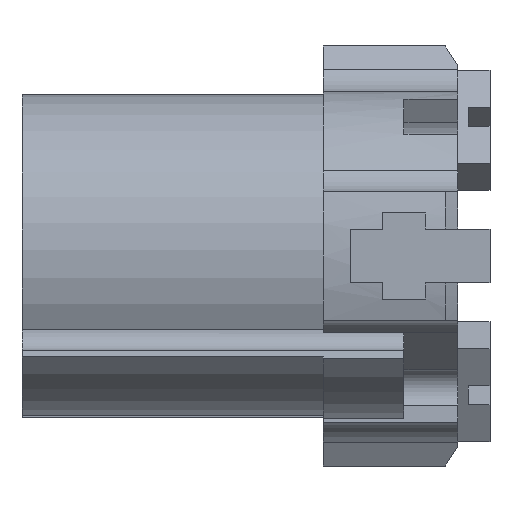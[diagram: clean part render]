
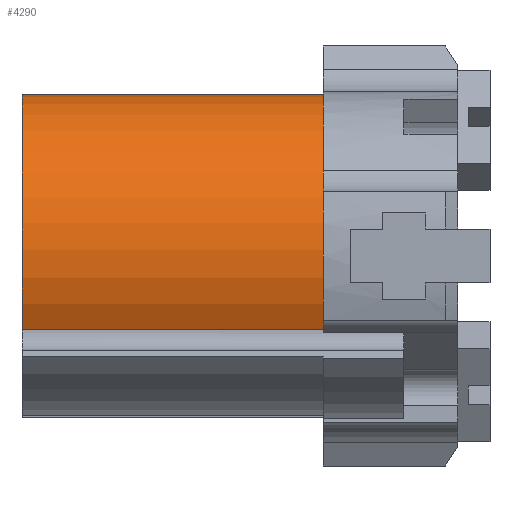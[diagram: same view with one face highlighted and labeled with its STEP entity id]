
A CAD part, left-side view. The second image highlights one B-rep face of the part: STEP entity #4290.
In plain terms, the highlighted cylindrical face has radius 15 mm (diameter 30 mm), a partial arc.
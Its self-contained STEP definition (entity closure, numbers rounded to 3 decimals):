
#178 = VERTEX_POINT ( 'NONE', #3902 ) ;
#208 = CARTESIAN_POINT ( 'NONE',  ( 0., -28., 15. ) ) ;
#277 = CARTESIAN_POINT ( 'NONE',  ( 0., 0., 0. ) ) ;
#311 = DIRECTION ( 'NONE',  ( 0., 1., 0. ) ) ;
#348 = DIRECTION ( 'NONE',  ( 0., 0., 1. ) ) ;
#385 = ORIENTED_EDGE ( 'NONE', *, *, #1876, .F. ) ;
#523 = AXIS2_PLACEMENT_3D ( 'NONE', #4277, #1209, #3858 ) ;
#661 = EDGE_CURVE ( 'NONE', #4169, #5307, #1063, .T. ) ;
#694 = ORIENTED_EDGE ( 'NONE', *, *, #1351, .F. ) ;
#695 = CIRCLE ( 'NONE', #1324, 15. ) ;
#914 = DIRECTION ( 'NONE',  ( 0., 0., 1. ) ) ;
#1063 = LINE ( 'NONE', #208, #3464 ) ;
#1209 = DIRECTION ( 'NONE',  ( 0., 1., 0. ) ) ;
#1324 = AXIS2_PLACEMENT_3D ( 'NONE', #277, #1993, #914 ) ;
#1351 = EDGE_CURVE ( 'NONE', #4398, #178, #2324, .T. ) ;
#1782 = CIRCLE ( 'NONE', #2502, 15. ) ;
#1876 = EDGE_CURVE ( 'NONE', #178, #5307, #695, .T. ) ;
#1919 = CARTESIAN_POINT ( 'NONE',  ( -13.334, -28., -6.871 ) ) ;
#1993 = DIRECTION ( 'NONE',  ( 0., 1., 0. ) ) ;
#2261 = EDGE_LOOP ( 'NONE', ( #2422, #5205, #385, #694 ) ) ;
#2324 = LINE ( 'NONE', #1919, #2437 ) ;
#2422 = ORIENTED_EDGE ( 'NONE', *, *, #3472, .T. ) ;
#2437 = VECTOR ( 'NONE', #2810, 1000. ) ;
#2502 = AXIS2_PLACEMENT_3D ( 'NONE', #3221, #311, #348 ) ;
#2810 = DIRECTION ( 'NONE',  ( 0., 1., 0. ) ) ;
#3221 = CARTESIAN_POINT ( 'NONE',  ( 0., -28., 0. ) ) ;
#3339 = FACE_OUTER_BOUND ( 'NONE', #2261, .T. ) ;
#3464 = VECTOR ( 'NONE', #3613, 1000. ) ;
#3472 = EDGE_CURVE ( 'NONE', #4398, #4169, #1782, .T. ) ;
#3613 = DIRECTION ( 'NONE',  ( 0., 1., 0. ) ) ;
#3858 = DIRECTION ( 'NONE',  ( 0., 0., 1. ) ) ;
#3902 = CARTESIAN_POINT ( 'NONE',  ( -13.334, 0., -6.871 ) ) ;
#4169 = VERTEX_POINT ( 'NONE', #4491 ) ;
#4277 = CARTESIAN_POINT ( 'NONE',  ( 0., -28., 0. ) ) ;
#4290 = ADVANCED_FACE ( 'NONE', ( #3339 ), #5175, .T. ) ;
#4310 = CARTESIAN_POINT ( 'NONE',  ( -13.334, -28., -6.871 ) ) ;
#4398 = VERTEX_POINT ( 'NONE', #4310 ) ;
#4491 = CARTESIAN_POINT ( 'NONE',  ( 0., -28., 15. ) ) ;
#4538 = CARTESIAN_POINT ( 'NONE',  ( 0., 0., 15. ) ) ;
#5175 = CYLINDRICAL_SURFACE ( 'NONE', #523, 15. ) ;
#5205 = ORIENTED_EDGE ( 'NONE', *, *, #661, .T. ) ;
#5307 = VERTEX_POINT ( 'NONE', #4538 ) ;
